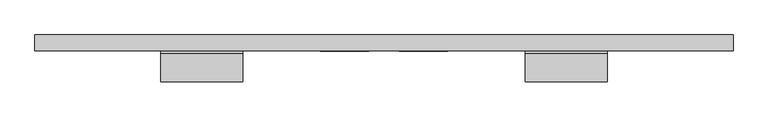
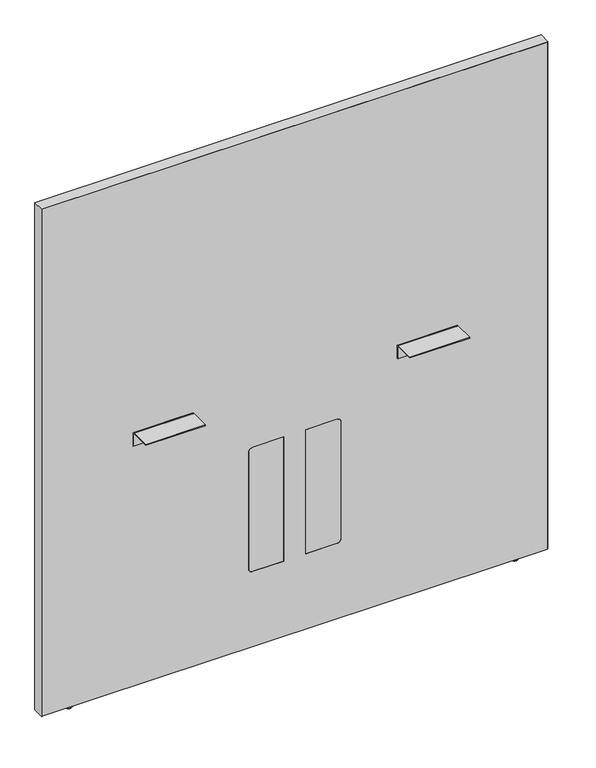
"""IFC4 building model written with IfcOpenShell, lengths in millimetres: furniture geometry, Steelcase - Answer Solution - Boundary Screen - Straight - Spanning : 54H x 51W."""

from ifc_helpers import new_model, si_unit, point, frame, frame_2d, origin, place, context, project, spatial, polyline, circle_curve, ellipse_curve, trimmed, segment, composite_curve, outline, extrude, source, transform, mapped, element, save
from ifc_brep_helpers import plane_surface, cylinder_surface, revolved_surface, advanced_brep


def furniture_1466aaac(model_context):
    return source(origin(), model_context, "Body", "SolidModel", [
        advanced_brep(
        [(-340.6902705, -14.8449166, 9.9059849), (-340.6902705, -5.9309607, 9.9059849), (-340.6902705, -23.7588726, 9.9059849), (-340.6902705, -5.9309607, 2.9673238), (-340.6902705, -23.7588726, 2.9673238), (-340.6902705, -6.8982978, 2.9673238), (-340.6902705, -22.7915354, 2.9673238), (-340.6902705, -6.8982978, 1.6569081), (-340.6902705, -22.7915354, 1.6569081), (-340.6902705, -8.5552059, 0.0), (-340.6902705, -21.1346274, 0.0), (-340.6902705, -14.8449166, 0.0)],
        [
            (0, 1),
            (1, 2, circle_curve(frame((-340.6902705, -14.8449166, 9.9059849), z_axis=(0.0, 0.0, 1.0), x_axis=(0.0, 1.0, 0.0)), 8.913956)),
            (2, 0),
            (2, 1, circle_curve(frame((-340.6902705, -14.8449166, 9.9059849), z_axis=(0.0, 0.0, 1.0), x_axis=(0.0, 1.0, 0.0)), 8.913956)),
            (1, 3),
            (3, 4, circle_curve(frame((-340.6902705, -14.8449166, 2.9673238), z_axis=(0.0, 0.0, 1.0), x_axis=(0.0, 1.0, 0.0)), 8.913956)),
            (4, 2),
            (4, 3, circle_curve(frame((-340.6902705, -14.8449166, 2.9673238), z_axis=(0.0, 0.0, 1.0), x_axis=(0.0, 1.0, 0.0)), 8.913956)),
            (3, 5),
            (5, 6, circle_curve(frame((-340.6902705, -14.8449166, 2.9673238), z_axis=(0.0, 0.0, 1.0), x_axis=(0.0, 1.0, 0.0)), 7.9466188)),
            (6, 4),
            (6, 5, circle_curve(frame((-340.6902705, -14.8449166, 2.9673238), z_axis=(0.0, 0.0, 1.0), x_axis=(0.0, 1.0, 0.0)), 7.9466188)),
            (5, 7),
            (7, 8, circle_curve(frame((-340.6902705, -14.8449166, 1.6569081), z_axis=(0.0, 0.0, 1.0), x_axis=(0.0, 1.0, 0.0)), 7.9466188)),
            (8, 6),
            (8, 7, circle_curve(frame((-340.6902705, -14.8449166, 1.6569081), z_axis=(0.0, 0.0, 1.0), x_axis=(0.0, 1.0, 0.0)), 7.9466188)),
            (7, 9, circle_curve(frame((-340.6902705, -8.5552059, 1.6569081), z_axis=(-1.0, 0.0, 0.0), x_axis=(0.0, 1.0, 0.0)), 1.6569081)),
            (9, 10, circle_curve(frame((-340.6902705, -14.8449166, 0.0), z_axis=(0.0, 0.0, 1.0), x_axis=(0.0, 1.0, 0.0)), 6.2897107)),
            (10, 8, circle_curve(frame((-340.6902705, -21.1346274, 1.6569081), z_axis=(-1.0, 0.0, 0.0), x_axis=(0.0, -1.0, 0.0)), 1.6569081)),
            (10, 9, circle_curve(frame((-340.6902705, -14.8449166, 0.0), z_axis=(0.0, 0.0, 1.0), x_axis=(0.0, 1.0, 0.0)), 6.2897107)),
            (9, 11),
            (11, 10),
        ],
        [
            plane_surface(frame((-340.6902705, -14.8449166, 9.9059849), z_axis=(0.0, 0.0, 1.0), x_axis=(0.0, 1.0, 0.0))),
            cylinder_surface(frame((-340.6902705, -14.8449166, 9.9059849), z_axis=(0.0, 0.0, 1.0), x_axis=(0.0, 1.0, 0.0)), 8.913956),
            plane_surface(frame((-340.6902705, -14.8449166, 2.9673238), z_axis=(0.0, 0.0, -1.0), x_axis=(0.0, 1.0, 0.0))),
            cylinder_surface(frame((-340.6902705, -14.8449166, 9.9059849), z_axis=(0.0, 0.0, 1.0), x_axis=(0.0, 1.0, 0.0)), 7.9466188),
            revolved_surface(trimmed(ellipse_curve(frame((-340.6902705, -8.5552059, 1.6569081), z_axis=(1.0, 0.0, 0.0), x_axis=(0.0, 1.0, 0.0)), 1.6569081, 1.6569081), [point((-340.6902705, -8.5552059, 0.0))], [point((-340.6902705, -6.8982978, 1.6569081))], True, "CARTESIAN"), (-340.6902705, -14.8449166, 9.9059849), (0.0, 0.0, 1.0)),
            plane_surface(frame((-340.6902705, -14.8449166, 0.0), z_axis=(0.0, 0.0, -1.0), x_axis=(0.0, 1.0, 0.0))),
        ],
        [
            (0, [[1, 2, 3]]),
            (0, [[-3, 4, -1]]),
            (1, [[-2, 5, 6, 7]]),
            (1, [[-4, -7, 8, -5]]),
            (2, [[-6, 9, 10, 11]]),
            (2, [[-8, -11, 12, -9]]),
            (3, [[-10, 13, 14, 15]]),
            (3, [[-12, -15, 16, -13]]),
            (4, [[-14, 17, 18, 19]]),
            (4, [[-16, -19, 20, -17]]),
            (5, [[-18, 21, 22]]),
            (5, [[-20, -22, -21]]),
        ],
    ),
        extrude(outline(composite_curve([segment(polyline([(-86.8398151, 696.4680019), (-86.8398151, 698.5), (-34.9450855, 698.5)]), True, "CONTINUOUS"), segment(trimmed(circle_curve(frame_2d((-34.9450855, 693.2447477)), 5.2552523), [point((-34.9450855, 698.5))], [point((-29.6898332, 693.2447477))], False, "CARTESIAN"), True, "CONTINUOUS"), segment(polyline([(-29.6898332, 693.2447477), (-29.6898332, 660.4), (-31.7218162, 660.4), (-31.7218162, 693.0058743)]), True, "CONTINUOUS"), segment(trimmed(circle_curve(frame_2d((-35.1839438, 693.0058743)), 3.4621276), [point((-31.7218162, 693.0058743))], [point((-35.1839438, 696.4680019))], True, "CARTESIAN"), True, "CONTINUOUS"), segment(polyline([(-35.1839438, 696.4680019), (-86.8398151, 696.4680019)]), True, "CONTINUOUS")], self_intersect=False)), frame((491.6282189, 0.0, 0.0), z_axis=(1.0, 0.0, 0.0), x_axis=(0.0, 1.0, 0.0)), (0.0, 0.0, 1.0), 152.4000969),
        extrude(outline(composite_curve([segment(polyline([(-86.8398151, 696.4680019), (-86.8398151, 698.5), (-34.9450855, 698.5)]), True, "CONTINUOUS"), segment(trimmed(circle_curve(frame_2d((-34.9450855, 693.2447477)), 5.2552523), [point((-34.9450855, 698.5))], [point((-29.6898332, 693.2447477))], False, "CARTESIAN"), True, "CONTINUOUS"), segment(polyline([(-29.6898332, 693.2447477), (-29.6898332, 660.4), (-31.7218162, 660.4), (-31.7218162, 693.0058743)]), True, "CONTINUOUS"), segment(trimmed(circle_curve(frame_2d((-35.1839438, 693.0058743)), 3.4621276), [point((-31.7218162, 693.0058743))], [point((-35.1839438, 696.4680019))], True, "CARTESIAN"), True, "CONTINUOUS"), segment(polyline([(-35.1839438, 696.4680019), (-86.8398151, 696.4680019)]), True, "CONTINUOUS")], self_intersect=False)), frame((-184.3884581, 0.0, 0.0), z_axis=(1.0, 0.0, 0.0), x_axis=(0.0, 1.0, 0.0)), (0.0, 0.0, 1.0), 152.4000969),
        advanced_brep(
        [(800.3286488, -23.7588726, 9.9059849), (800.3286488, -5.9309607, 9.9059849), (800.3286488, -14.8449166, 9.9059849), (800.3286488, -23.7588726, 2.9673238), (800.3286488, -5.9309607, 2.9673238), (800.3286488, -22.7915354, 2.9673238), (800.3286488, -6.8982978, 2.9673238), (800.3286488, -22.7915354, 1.6569081), (800.3286488, -6.8982978, 1.6569081), (800.3286488, -21.1346274, 0.0), (800.3286488, -8.5552059, 0.0), (800.3286488, -14.8449166, 0.0)],
        [
            (0, 1, circle_curve(frame((800.3286488, -14.8449166, 9.9059849), z_axis=(0.0, 0.0, 1.0), x_axis=(0.0, 1.0, 0.0)), 8.913956)),
            (1, 2),
            (2, 0),
            (1, 0, circle_curve(frame((800.3286488, -14.8449166, 9.9059849), z_axis=(0.0, 0.0, 1.0), x_axis=(0.0, 1.0, 0.0)), 8.913956)),
            (3, 4, circle_curve(frame((800.3286488, -14.8449166, 2.9673238), z_axis=(0.0, 0.0, 1.0), x_axis=(0.0, 1.0, 0.0)), 8.913956)),
            (4, 1),
            (0, 3),
            (4, 3, circle_curve(frame((800.3286488, -14.8449166, 2.9673238), z_axis=(0.0, 0.0, 1.0), x_axis=(0.0, 1.0, 0.0)), 8.913956)),
            (5, 6, circle_curve(frame((800.3286488, -14.8449166, 2.9673238), z_axis=(0.0, 0.0, 1.0), x_axis=(0.0, 1.0, 0.0)), 7.9466188)),
            (6, 4),
            (3, 5),
            (6, 5, circle_curve(frame((800.3286488, -14.8449166, 2.9673238), z_axis=(0.0, 0.0, 1.0), x_axis=(0.0, 1.0, 0.0)), 7.9466188)),
            (7, 8, circle_curve(frame((800.3286488, -14.8449166, 1.6569081), z_axis=(0.0, 0.0, 1.0), x_axis=(0.0, 1.0, 0.0)), 7.9466188)),
            (8, 6),
            (5, 7),
            (8, 7, circle_curve(frame((800.3286488, -14.8449166, 1.6569081), z_axis=(0.0, 0.0, 1.0), x_axis=(0.0, 1.0, 0.0)), 7.9466188)),
            (9, 10, circle_curve(frame((800.3286488, -14.8449166, 0.0), z_axis=(0.0, 0.0, 1.0), x_axis=(0.0, 1.0, 0.0)), 6.2897107)),
            (10, 8, circle_curve(frame((800.3286488, -8.5552059, 1.6569081), z_axis=(1.0, 0.0, 0.0), x_axis=(0.0, 1.0, 0.0)), 1.6569081)),
            (7, 9, circle_curve(frame((800.3286488, -21.1346274, 1.6569081), z_axis=(1.0, 0.0, 0.0), x_axis=(0.0, -1.0, 0.0)), 1.6569081)),
            (10, 9, circle_curve(frame((800.3286488, -14.8449166, 0.0), z_axis=(0.0, 0.0, 1.0), x_axis=(0.0, 1.0, 0.0)), 6.2897107)),
            (11, 10),
            (9, 11),
        ],
        [
            plane_surface(frame((800.3286488, -14.8449166, 9.9059849), z_axis=(0.0, 0.0, 1.0), x_axis=(0.0, 1.0, 0.0))),
            cylinder_surface(frame((800.3286488, -14.8449166, 9.9059849), z_axis=(0.0, 0.0, -1.0), x_axis=(0.0, 1.0, 0.0)), 8.913956),
            plane_surface(frame((800.3286488, -14.8449166, 2.9673238), z_axis=(0.0, 0.0, -1.0), x_axis=(0.0, 1.0, 0.0))),
            cylinder_surface(frame((800.3286488, -14.8449166, 9.9059849), z_axis=(0.0, 0.0, -1.0), x_axis=(0.0, 1.0, 0.0)), 7.9466188),
            revolved_surface(trimmed(ellipse_curve(frame((800.3286488, -8.5552059, 1.6569081), z_axis=(-1.0, 0.0, 0.0), x_axis=(0.0, 1.0, 0.0)), 1.6569081, 1.6569081), [point((800.3286488, -6.8982978, 1.6569081))], [point((800.3286488, -8.5552059, 0.0))], True, "CARTESIAN"), (800.3286488, -14.8449166, 9.9059849), (0.0, 0.0, -1.0)),
            plane_surface(frame((800.3286488, -14.8449166, 0.0), z_axis=(0.0, 0.0, -1.0), x_axis=(0.0, 1.0, 0.0))),
        ],
        [
            (0, [[1, 2, 3]]),
            (0, [[4, -3, -2]]),
            (1, [[5, 6, -1, 7]]),
            (1, [[8, -7, -4, -6]]),
            (2, [[9, 10, -5, 11]]),
            (2, [[12, -11, -8, -10]]),
            (3, [[13, 14, -9, 15]]),
            (3, [[16, -15, -12, -14]]),
            (4, [[17, 18, -13, 19]]),
            (4, [[20, -19, -16, -18]]),
            (5, [[21, -17, 22]]),
            (5, [[-22, -20, -21]]),
        ],
    ),
        advanced_brep(
        [(876.4780168, 0.0, 1381.542118), (876.4780168, 0.0, 9.9059849), (-416.8902221, 0.0, 9.9059849), (-416.8902221, 0.0, 1381.542118), (876.4780168, -29.6898332, 1381.542118), (-416.8902221, -29.6898332, 1381.542118), (-416.8902221, -29.6898332, 9.9059849), (876.4780168, -29.6898332, 9.9059849), (337.7883813, -29.6898332, 549.6162029), (347.9483813, -29.6898332, 539.4562029), (347.9483813, -29.6898332, 223.9362137), (337.7883813, -29.6898332, 213.7762137), (258.1344836, -29.6898332, 213.7762137), (258.1344836, -29.6898332, 549.6162029), (121.849997, -29.6898332, 549.6162029), (201.5038947, -29.6898332, 549.6162029), (201.5038947, -29.6898332, 213.7762137), (121.849997, -29.6898332, 213.7762137), (111.689997, -29.6898332, 223.9362137), (111.689997, -29.6898332, 539.4562029), (258.1344836, -29.0550397, 549.6162029), (337.7883813, -29.0550397, 549.6162029), (258.1344836, -29.0550397, 213.7762137), (337.7883813, -29.0550397, 213.7762137), (347.9483813, -29.0550397, 223.9362137), (347.9483813, -29.0550397, 539.4562029), (121.849997, -29.0550397, 549.6162029), (111.689997, -29.0550397, 539.4562029), (111.689997, -29.0550397, 223.9362137), (121.849997, -29.0550397, 213.7762137), (201.5038947, -29.0550397, 213.7762137), (201.5038947, -29.0550397, 549.6162029)],
        [
            (0, 1),
            (1, 2),
            (2, 3),
            (3, 0),
            (4, 5),
            (5, 6),
            (6, 7),
            (7, 4),
            (8, 9, circle_curve(frame((337.7883813, -29.6898332, 539.4562029), z_axis=(0.0, 1.0, 0.0), x_axis=(0.0, 0.0, 1.0)), 10.16)),
            (9, 10),
            (10, 11, circle_curve(frame((337.7883813, -29.6898332, 223.9362137), z_axis=(0.0, 1.0, 0.0), x_axis=(0.0, 0.0, 1.0)), 10.16)),
            (11, 12),
            (12, 13),
            (13, 8),
            (14, 15),
            (15, 16),
            (16, 17),
            (17, 18, circle_curve(frame((121.849997, -29.6898332, 223.9362137), z_axis=(0.0, 1.0, 0.0), x_axis=(0.0, 0.0, 1.0)), 10.16)),
            (18, 19),
            (19, 14, circle_curve(frame((121.849997, -29.6898332, 539.4562029), z_axis=(0.0, 1.0, 0.0), x_axis=(0.0, 0.0, 1.0)), 10.16)),
            (0, 4),
            (7, 1),
            (6, 2),
            (5, 3),
            (13, 20),
            (20, 21),
            (21, 8),
            (12, 22),
            (22, 20),
            (11, 23),
            (23, 22),
            (10, 24),
            (24, 23, circle_curve(frame((337.7883813, -29.0550397, 223.9362137), z_axis=(0.0, 1.0, 0.0), x_axis=(0.0, 0.0, 1.0)), 10.16)),
            (9, 25),
            (25, 24),
            (21, 25, circle_curve(frame((337.7883813, -29.0550397, 539.4562029), z_axis=(0.0, 1.0, 0.0), x_axis=(0.0, 0.0, 1.0)), 10.16)),
            (26, 27, circle_curve(frame((121.849997, -29.0550397, 539.4562029), z_axis=(0.0, -1.0, 0.0), x_axis=(0.0, 0.0, 1.0)), 10.16)),
            (27, 28),
            (28, 29, circle_curve(frame((121.849997, -29.0550397, 223.9362137), z_axis=(0.0, -1.0, 0.0), x_axis=(0.0, 0.0, 1.0)), 10.16)),
            (29, 30),
            (30, 31),
            (31, 26),
            (19, 27),
            (26, 14),
            (18, 28),
            (17, 29),
            (16, 30),
            (15, 31),
        ],
        [
            plane_surface(frame((876.4780168, 0.0, 1381.542118), z_axis=(0.0, 1.0, 0.0), x_axis=(0.0, 0.0, -1.0))),
            plane_surface(frame((876.4780168, -29.6898332, 1381.542118), z_axis=(0.0, -1.0, 0.0), x_axis=(0.0, 0.0, 1.0))),
            plane_surface(frame((876.4780168, 0.0, 1381.542118), z_axis=(1.0, 0.0, 0.0), x_axis=(0.0, -1.0, 0.0))),
            plane_surface(frame((876.4780168, 0.0, 9.9059849), z_axis=(0.0, 0.0, -1.0), x_axis=(0.0, -1.0, 0.0))),
            plane_surface(frame((-416.8902221, 0.0, 9.9059849), z_axis=(-1.0, 0.0, 0.0), x_axis=(0.0, -1.0, 0.0))),
            plane_surface(frame((-416.8902221, 0.0, 1381.542118), z_axis=(0.0, 0.0, 1.0), x_axis=(0.0, -1.0, 0.0))),
            plane_surface(frame((337.7883813, 0.0, 549.6162029), z_axis=(0.0, 0.0, -1.0), x_axis=(0.0, -1.0, 0.0))),
            plane_surface(frame((258.1344836, 0.0, 549.6162029), z_axis=(1.0, 0.0, 0.0), x_axis=(0.0, -1.0, 0.0))),
            plane_surface(frame((258.1344836, 0.0, 213.7762137), z_axis=(0.0, 0.0, 1.0), x_axis=(0.0, -1.0, 0.0))),
            revolved_surface(polyline([(337.7883813, -29.6898332, 234.0962137), (337.7883813, -29.0550397, 234.0962137)]), (337.7883813, -29.6898332, 223.9362137), (0.0, -1.0, 0.0)),
            plane_surface(frame((347.9483813, 0.0, 223.9362137), z_axis=(-1.0, 0.0, 0.0), x_axis=(0.0, -1.0, 0.0))),
            revolved_surface(polyline([(337.7883813, -29.6898332, 549.6162029), (337.7883813, -29.0550397, 549.6162029)]), (337.7883813, -29.6898332, 539.4562029), (0.0, -1.0, 0.0)),
            plane_surface(frame((347.9483813, -29.0550397, 549.6162029), z_axis=(0.0, -1.0, 0.0), x_axis=(0.0, 0.0, 1.0))),
            revolved_surface(polyline([(121.849997, -29.6898332, 549.6162029), (121.849997, -29.0550397, 549.6162029)]), (121.849997, -29.6898332, 539.4562029), (0.0, -1.0, 0.0)),
            plane_surface(frame((111.689997, 0.0, 539.4562029), z_axis=(1.0, 0.0, 0.0), x_axis=(0.0, -1.0, 0.0))),
            revolved_surface(polyline([(121.849997, -29.6898332, 234.0962137), (121.849997, -29.0550397, 234.0962137)]), (121.849997, -29.6898332, 223.9362137), (0.0, -1.0, 0.0)),
            plane_surface(frame((121.849997, 0.0, 213.7762137), z_axis=(0.0, 0.0, 1.0), x_axis=(0.0, -1.0, 0.0))),
            plane_surface(frame((201.5038947, 0.0, 213.7762137), z_axis=(-1.0, 0.0, 0.0), x_axis=(0.0, -1.0, 0.0))),
            plane_surface(frame((201.5038947, 0.0, 549.6162029), z_axis=(0.0, 0.0, -1.0), x_axis=(0.0, -1.0, 0.0))),
        ],
        [
            (0, [[1, 2, 3, 4]]),
            (1, [[5, 6, 7, 8], [9, 10, 11, 12, 13, 14], [15, 16, 17, 18, 19, 20]]),
            (2, [[-1, 21, -8, 22]]),
            (3, [[-2, -22, -7, 23]]),
            (4, [[-3, -23, -6, 24]]),
            (5, [[-4, -24, -5, -21]]),
            (6, [[-14, 25, 26, 27]]),
            (7, [[-13, 28, 29, -25]]),
            (8, [[-12, 30, 31, -28]]),
            (9, [[-11, 32, 33, -30]]),
            (10, [[-10, 34, 35, -32]]),
            (11, [[-9, -27, 36, -34]]),
            (12, [[-26, -29, -31, -33, -35, -36]]),
            (12, [[37, 38, 39, 40, 41, 42]]),
            (13, [[-20, 43, -37, 44]]),
            (14, [[-19, 45, -38, -43]]),
            (15, [[-18, 46, -39, -45]]),
            (16, [[-17, 47, -40, -46]]),
            (17, [[-16, 48, -41, -47]]),
            (18, [[-15, -44, -42, -48]]),
        ],
    ),
        extrude(outline(composite_curve([segment(polyline([(549.6162029, 337.7883813), (549.6162029, 258.1344836), (213.7762137, 258.1344836), (213.7762137, 337.7883813)]), True, "CONTINUOUS"), segment(trimmed(circle_curve(frame_2d((223.9362137, 337.7883813)), 10.16), [point((213.7762137, 337.7883813))], [point((223.9362137, 347.9483813))], False, "CARTESIAN"), True, "CONTINUOUS"), segment(polyline([(223.9362137, 347.9483813), (539.4562029, 347.9483813)]), True, "CONTINUOUS"), segment(trimmed(circle_curve(frame_2d((539.4562029, 337.7883813)), 10.16), [point((539.4562029, 347.9483813))], [point((549.6162029, 337.7883813))], False, "CARTESIAN"), True, "CONTINUOUS")], self_intersect=False)), frame((0.0, -29.6898332, 0.0), z_axis=(0.0, 1.0, 0.0), x_axis=(0.0, 0.0, 1.0)), (0.0, 0.0, 1.0), 0.6347935),
        extrude(outline(composite_curve([segment(trimmed(circle_curve(frame_2d((539.4562029, 121.849997)), 10.16), [point((549.6162029, 121.849997))], [point((539.4562029, 111.689997))], False, "CARTESIAN"), True, "CONTINUOUS"), segment(polyline([(539.4562029, 111.689997), (223.9362137, 111.689997)]), True, "CONTINUOUS"), segment(trimmed(circle_curve(frame_2d((223.9362137, 121.849997)), 10.16), [point((223.9362137, 111.689997))], [point((213.7762137, 121.849997))], False, "CARTESIAN"), True, "CONTINUOUS"), segment(polyline([(213.7762137, 121.849997), (213.7762137, 201.5038947), (549.6162029, 201.5038947), (549.6162029, 121.849997)]), True, "CONTINUOUS")], self_intersect=False)), frame((0.0, -29.6898332, 0.0), z_axis=(0.0, 1.0, 0.0), x_axis=(0.0, 0.0, 1.0)), (0.0, 0.0, 1.0), 0.6347935),
        extrude(outline(polyline([(1382.522, 877.5191891), (1382.522, -417.8808109), (9.9059849, -417.8808109), (9.9059849, -416.8902221), (1381.542118, -416.8902221), (1381.542118, 876.4780168), (9.9059849, 876.4780168), (9.9059849, 877.5191891), (1382.522, 877.5191891)])), frame((0.0, -29.6898332, 0.0), z_axis=(0.0, 1.0, 0.0), x_axis=(0.0, 0.0, 1.0)), (0.0, 0.0, 1.0), 29.6898332),
    ])


if __name__ == "__main__":
    model = new_model("IFC4")
    model_context = context("Model", 3, world=origin())
    ifc_project = project(units=[si_unit("LENGTHUNIT", "METRE", prefix="MILLI")], contexts=[model_context])
    site = spatial("IfcSite", under=ifc_project)
    building = spatial("IfcBuilding", under=site)
    placement = place(None, origin())
    furniture_shape = furniture_1466aaac(model_context)
    element("IfcFurniture", 1, ObjectType="Steelcase - Answer Solution - Boundary Screen - Straight - Spanning : 54H x 51W", at=placement, inside=building, context=model_context, shape_type="MappedRepresentation", body=[
        mapped(furniture_shape, transform((0.0, 0.0, 0.0), x_axis=(1.0, 0.0, 0.0), y_axis=(0.0, 1.0, 0.0), z_axis=(0.0, 0.0, 1.0))),
    ])
    save(model, "model.ifc")
